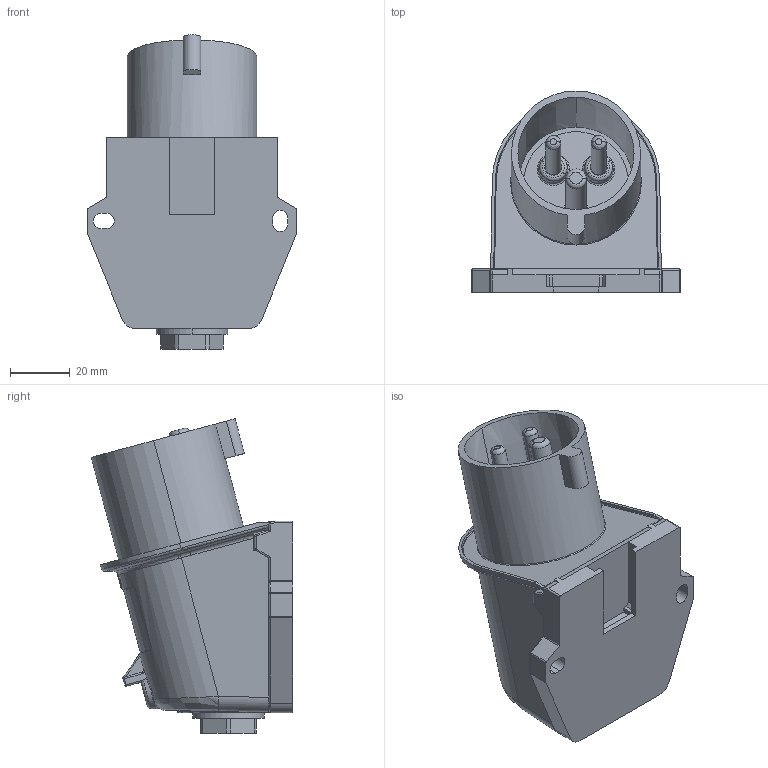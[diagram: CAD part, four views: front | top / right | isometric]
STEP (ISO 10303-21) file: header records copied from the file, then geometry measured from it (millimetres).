
FILE_DESCRIPTION((''),'2;1');
FILE_NAME('844_SW0001','2018-04-11T',('gisse'),('MENNEKES'),'PRO/ENGINEER BY PARAMETRIC TECHNOLOGY CORPORATION, 2015440','PRO/ENGINEER BY PARAMETRIC TECHNOLOGY CORPORATION, 2015440','');
FILE_SCHEMA(('AUTOMOTIVE_DESIGN { 1 0 10303 214 1 1 1 1 }'));
Length unit declared in the file: millimetre
Products named in the file (1): 844_SW0001
Bounding box: 70 x 67.4 x 105.19 mm (x, y, z)
Volume: 152397.7 mm3; surface area: 32074.8 mm2
Topology: 3 solids, 3 shells, 379 faces, 945 edges, 586 vertices
Faces by surface type: plane 156, cylinder 109, bspline 45, cone 32, torus 25, sphere 12
Entity records: 21059 total; most frequent: CARTESIAN_POINT 4833, ORIENTED_EDGE 1886, DIRECTION 1695, PRESENTATION_STYLE_ASSIGNMENT 1309, STYLED_ITEM 946, CURVE_STYLE 943, EDGE_CURVE 943, FILL_AREA_STYLE_COLOUR 726
